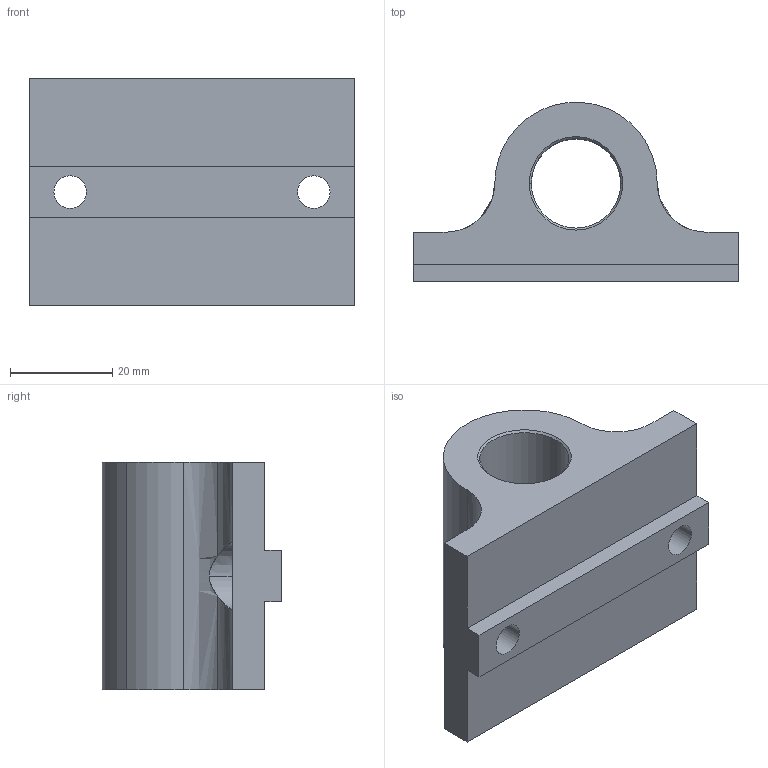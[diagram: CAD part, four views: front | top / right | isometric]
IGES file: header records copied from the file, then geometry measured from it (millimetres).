
Global section: file name: C:\Documents and Settings\Administrator\Desktop\Transfer Temp\pillowblock-J.igs; native system: AutoDesk Inventor R2.0 ; preprocessor: AutoDesk Inventor Iges Exporter R2.0; author: No Author specified; organization: No Organization specified; date: 20020111.214646; units: inch
Bounding box: 63.5 x 35.03 x 44.45 mm (x, y, z)
Surface area: 12520.1 mm2 (no closed solid volume)
Topology: 0 solids, 0 shells, 37 faces, 194 edges, 194 vertices
Faces by surface type: revolution 20, bspline 17
